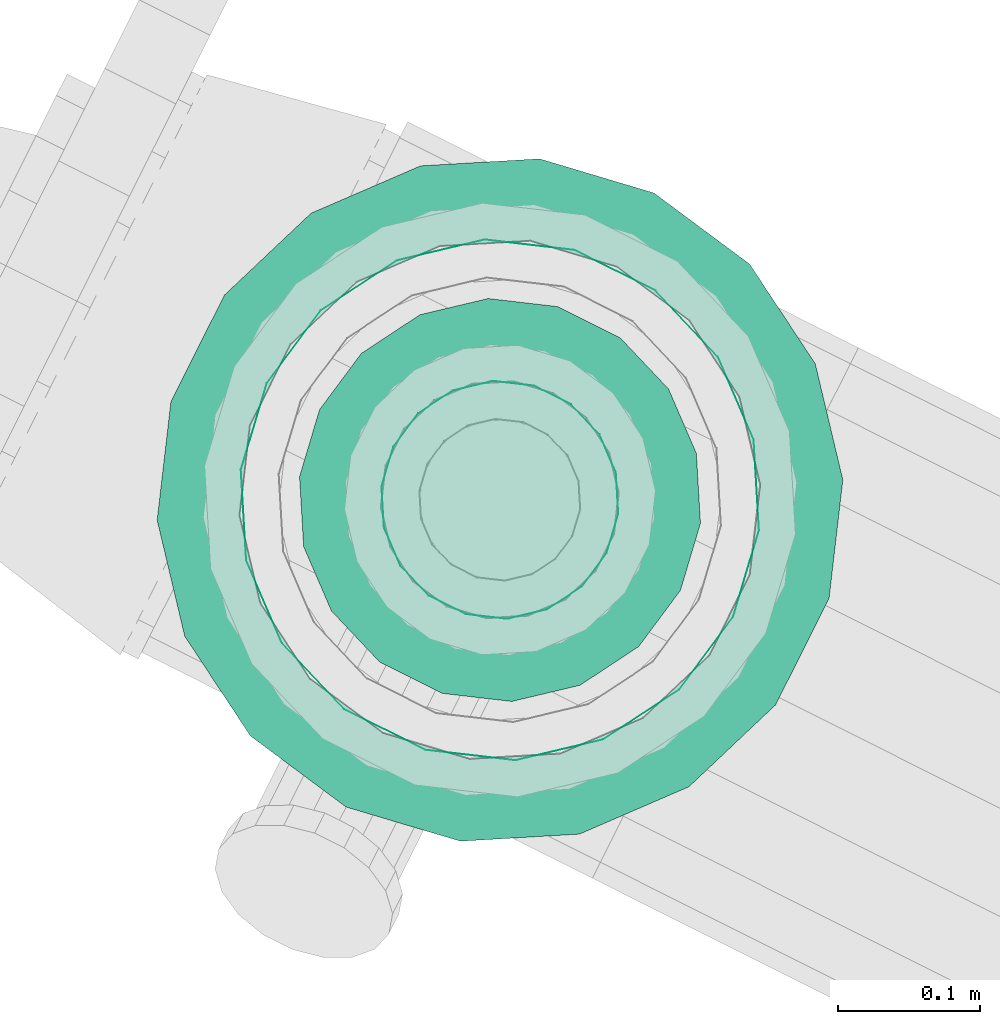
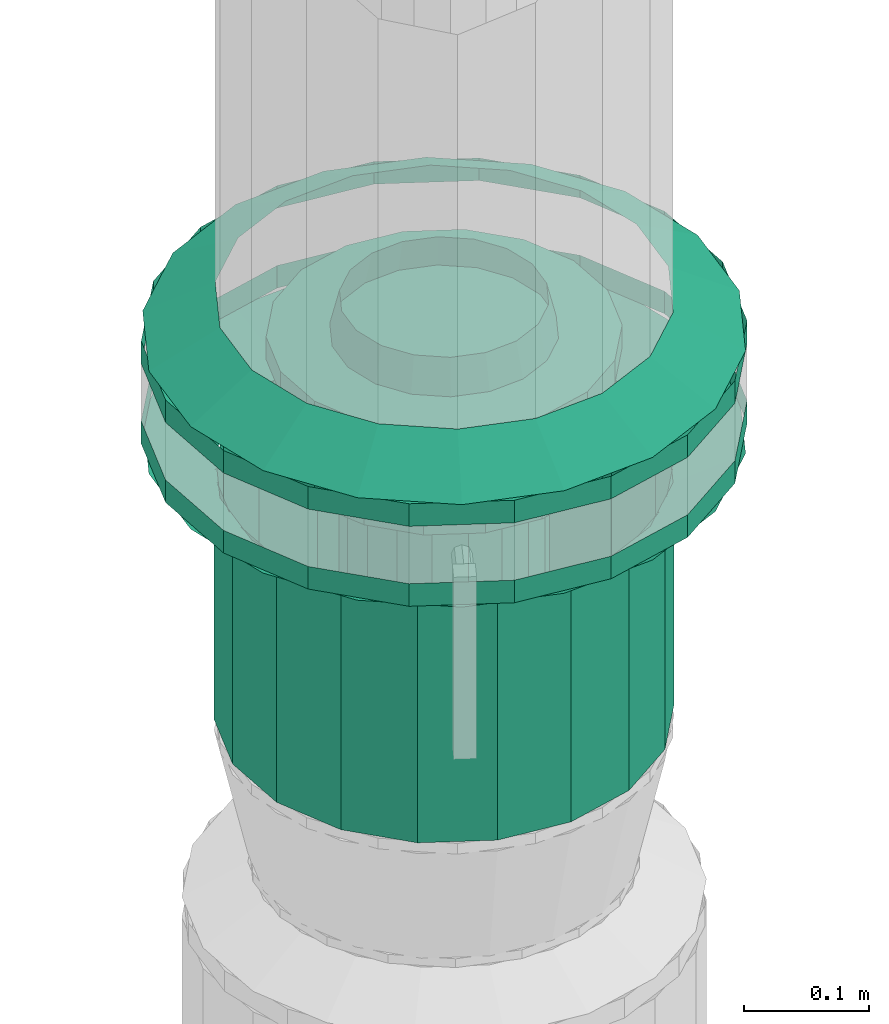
# One storey, part 73 of 152: 2 flow fittings, 1 flow segment.
"""IFC2X3 building model written with IfcOpenShell, lengths in metres."""

from ifc_helpers import new_model, si_unit, derived_unit, direction, frame, origin, place, context, subcontext, project, spatial, face_set, surface_model, source, transform, mapped, material, type_object, type_shapes, element, save


model = new_model("IFC2X3")

# Units and contexts
model_context = context("Model", 3, precision=5.2338327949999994e-05, world=origin(), true_north=direction((0.0, 1.0)))
body_context = subcontext(model_context, "Body", "Model", "MODEL_VIEW")
ifc_project = project(units=[si_unit("LENGTHUNIT", "METRE"), si_unit("AREAUNIT", "SQUARE_METRE"), si_unit("VOLUMEUNIT", "CUBIC_METRE"), si_unit("MASSUNIT", "GRAM", prefix="KILO"), si_unit("PLANEANGLEUNIT", "RADIAN"), derived_unit("THERMALTRANSMITTANCEUNIT", [(si_unit("MASSUNIT", "GRAM", prefix="KILO"), 1), (si_unit("THERMODYNAMICTEMPERATUREUNIT", "KELVIN"), -1), (si_unit("TIMEUNIT", "SECOND"), -3)])], contexts=[model_context])

# Site, building, storey
site_placement = place(None, frame((0.0, 0.0, 0.0), z_axis=(0.0, 0.0, 1.0), x_axis=(0.8939966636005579, -0.4480736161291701, 0.0)))
site = spatial("IfcSite", under=ifc_project, at=site_placement, Name="Default", CompositionType="ELEMENT")
building_placement = place(site_placement, origin())
building = spatial("IfcBuilding", under=site, at=building_placement, CompositionType="ELEMENT")
storey_placement = place(building_placement, frame((0.0, 0.0, 2.7499999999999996)))
storey = spatial("IfcBuildingStorey", under=building, at=storey_placement, Name="1. Obergeschoss", CompositionType="ELEMENT", Elevation=2.7499999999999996)

# Flow fitting
ifc_material = material(Name="IfcSurfaceStyle #1741")
distribution_element_type_1 = type_object("IfcDistributionElementType", Name="Flansch 320585:Flansch 320585", material=ifc_material)
shared_shape_1 = source(origin(), body_context, "Body", "SurfaceModel", [
    surface_model("IfcFaceBasedSurfaceModel", [(23.227353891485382, 8.459715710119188, 4.349183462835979), (23.218760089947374, 8.410977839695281, 4.349183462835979), (23.218760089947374, 8.410977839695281, 4.327183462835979), (23.227353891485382, 8.459715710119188, 4.327183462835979), (23.19401522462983, 8.368118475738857, 4.349183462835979), (23.19401522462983, 8.368118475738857, 4.327183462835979), (23.15610389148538, 8.336307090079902, 4.349183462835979), (23.15610389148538, 8.336307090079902, 4.327183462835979), (23.109598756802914, 8.319380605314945, 4.349183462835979), (23.109598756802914, 8.319380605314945, 4.327183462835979), (23.06010902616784, 8.319380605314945, 4.349183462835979), (23.06010902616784, 8.319380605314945, 4.327183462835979), (23.013603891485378, 8.336307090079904, 4.349183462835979), (23.013603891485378, 8.336307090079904, 4.327183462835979), (22.975692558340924, 8.368118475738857, 4.349183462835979), (22.975692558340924, 8.368118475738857, 4.327183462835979), (22.950947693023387, 8.410977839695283, 4.349183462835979), (22.950947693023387, 8.410977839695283, 4.327183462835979), (22.94235389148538, 8.45971571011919, 4.349183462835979), (22.94235389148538, 8.45971571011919, 4.327183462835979), (22.95094769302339, 8.508453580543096, 4.349183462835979), (22.95094769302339, 8.508453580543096, 4.327183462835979), (22.975692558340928, 8.551312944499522, 4.349183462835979), (22.975692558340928, 8.551312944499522, 4.327183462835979), (23.013603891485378, 8.583124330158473, 4.349183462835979), (23.013603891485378, 8.583124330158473, 4.327183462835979), (23.06010902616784, 8.60005081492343, 4.349183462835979), (23.06010902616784, 8.60005081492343, 4.327183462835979), (23.109598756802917, 8.600050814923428, 4.349183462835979), (23.109598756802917, 8.600050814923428, 4.327183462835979), (23.15610389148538, 8.583124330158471, 4.349183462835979), (23.15610389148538, 8.583124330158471, 4.327183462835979), (23.194015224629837, 8.551312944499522, 4.349183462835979), (23.194015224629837, 8.551312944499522, 4.327183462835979), (23.218760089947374, 8.50845358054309, 4.349183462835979), (23.218760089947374, 8.50845358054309, 4.327183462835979), (23.084853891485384, 8.459715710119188, 4.327183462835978), (23.08485389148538, 8.36771571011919, 4.327183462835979), (23.053388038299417, 8.373263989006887, 4.327183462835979), (23.056072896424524, 8.380640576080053, 4.29418346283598), (23.084853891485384, 8.375565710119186, 4.29418346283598), (23.02571743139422, 8.38923962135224, 4.327183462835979), (23.030763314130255, 8.395253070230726, 4.29418346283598), (23.005179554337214, 8.413715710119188, 4.327183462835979), (23.011977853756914, 8.417640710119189, 4.29418346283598), (22.994251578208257, 8.443740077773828, 4.327183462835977), (23.001982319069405, 8.445103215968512, 4.294183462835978), (22.994251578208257, 8.475691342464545, 4.327183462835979), (23.001982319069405, 8.474328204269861, 4.29418346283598), (23.005179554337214, 8.505715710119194, 4.327183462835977), (23.011977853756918, 8.501790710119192, 4.294183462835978), (23.02571743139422, 8.53019179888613, 4.327183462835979), (23.030763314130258, 8.524178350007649, 4.29418346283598), (23.053388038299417, 8.546167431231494, 4.327183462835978), (23.05607289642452, 8.538790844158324, 4.294183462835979), (23.08485389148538, 8.55171571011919, 4.327183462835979), (23.084853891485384, 8.543865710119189, 4.29418346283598), (23.116319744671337, 8.546167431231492, 4.327183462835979), (23.11363488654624, 8.53879084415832, 4.29418346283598), (23.14399035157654, 8.53019179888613, 4.327183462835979), (23.1389444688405, 8.524178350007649, 4.29418346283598), (23.164528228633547, 8.505715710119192, 4.327183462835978), (23.15772992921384, 8.50179071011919, 4.294183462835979), (23.175456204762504, 8.475691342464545, 4.327183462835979), (23.16772546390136, 8.474328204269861, 4.29418346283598), (23.175456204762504, 8.443740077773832, 4.32718346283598), (23.16772546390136, 8.445103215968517, 4.2941834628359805), (23.164528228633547, 8.413715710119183, 4.327183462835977), (23.157729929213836, 8.417640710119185, 4.294183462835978), (23.14399035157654, 8.389239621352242, 4.327183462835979), (23.1389444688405, 8.395253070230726, 4.29418346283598), (23.116319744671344, 8.373263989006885, 4.327183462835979), (23.113634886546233, 8.380640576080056, 4.29418346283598), (23.327353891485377, 8.459715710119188, 4.349183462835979), (23.312729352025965, 8.376775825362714, 4.349183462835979), (23.312729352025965, 8.376775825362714, 4.327183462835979), (23.327353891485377, 8.459715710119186, 4.327183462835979), (23.27061966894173, 8.303839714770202, 4.349183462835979), (23.27061966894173, 8.303839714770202, 4.327183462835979), (23.206103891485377, 8.249704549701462, 4.349183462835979), (23.206103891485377, 8.249704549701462, 4.327183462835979), (23.12696357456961, 8.22089983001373, 4.349183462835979), (23.12696357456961, 8.22089983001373, 4.327183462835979), (23.04274420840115, 8.22089983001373, 4.349183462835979), (23.04274420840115, 8.22089983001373, 4.327183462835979), (22.963603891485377, 8.249704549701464, 4.349183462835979), (22.963603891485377, 8.249704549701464, 4.327183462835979), (22.89908811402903, 8.303839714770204, 4.349183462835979), (22.89908811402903, 8.303839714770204, 4.327183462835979), (22.8569784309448, 8.376775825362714, 4.349183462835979), (22.8569784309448, 8.376775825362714, 4.327183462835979), (22.842353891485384, 8.45971571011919, 4.349183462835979), (22.842353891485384, 8.45971571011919, 4.327183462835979), (22.856978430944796, 8.542655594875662, 4.349183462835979), (22.856978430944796, 8.542655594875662, 4.327183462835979), (22.89908811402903, 8.615591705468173, 4.349183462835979), (22.89908811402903, 8.615591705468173, 4.327183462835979), (22.96360389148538, 8.669726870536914, 4.349183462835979), (22.96360389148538, 8.669726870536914, 4.327183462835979), (23.04274420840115, 8.698531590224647, 4.349183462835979), (23.04274420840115, 8.698531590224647, 4.327183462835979), (23.126963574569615, 8.698531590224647, 4.349183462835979), (23.126963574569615, 8.698531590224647, 4.327183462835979), (23.206103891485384, 8.669726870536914, 4.349183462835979), (23.206103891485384, 8.669726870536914, 4.327183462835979), (23.27061966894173, 8.615591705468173, 4.349183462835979), (23.27061966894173, 8.615591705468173, 4.327183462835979), (23.312729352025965, 8.54265559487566, 4.349183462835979), (23.312729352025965, 8.54265559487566, 4.327183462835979), (23.08485389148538, 8.217215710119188, 4.327183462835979), (23.001914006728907, 8.231840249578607, 4.327183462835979), (23.021870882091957, 8.286671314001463, 4.29418346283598), (23.08485389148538, 8.275565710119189, 4.294183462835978), (22.928977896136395, 8.273949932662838, 4.327183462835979), (22.9664845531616, 8.31864862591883, 4.29418346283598), (22.874842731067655, 8.33846571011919, 4.327183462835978), (22.925375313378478, 8.367640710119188, 4.294183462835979), (22.84603801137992, 8.417606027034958, 4.327183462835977), (22.903501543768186, 8.427738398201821, 4.294183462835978), (22.846038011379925, 8.501825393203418, 4.327183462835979), (22.903501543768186, 8.491693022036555, 4.29418346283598), (22.87484273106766, 8.58096571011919, 4.327183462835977), (22.925375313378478, 8.551790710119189, 4.294183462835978), (22.928977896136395, 8.645481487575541, 4.32718346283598), (22.966484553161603, 8.600782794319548, 4.2941834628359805), (23.001914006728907, 8.687591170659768, 4.327183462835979), (23.021870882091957, 8.632760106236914, 4.29418346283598), (23.08485389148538, 8.702215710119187, 4.327183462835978), (23.084853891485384, 8.643865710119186, 4.294183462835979), (23.167793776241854, 8.687591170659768, 4.327183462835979), (23.1478369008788, 8.632760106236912, 4.29418346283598), (23.240729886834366, 8.645481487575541, 4.327183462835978), (23.203223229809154, 8.600782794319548, 4.294183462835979), (23.294865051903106, 8.580965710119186, 4.327183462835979), (23.244332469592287, 8.55179071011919, 4.29418346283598), (23.323669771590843, 8.501825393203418, 4.327183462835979), (23.266206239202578, 8.491693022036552, 4.29418346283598), (23.323669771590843, 8.417606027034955, 4.32718346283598), (23.266206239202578, 8.427738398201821, 4.2941834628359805), (23.294865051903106, 8.338465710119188, 4.32718346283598), (23.244332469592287, 8.367640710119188, 4.2941834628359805), (23.240729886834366, 8.273949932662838, 4.327183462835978), (23.203223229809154, 8.318648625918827, 4.294183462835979), (23.167793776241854, 8.231840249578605, 4.327183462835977), (23.147836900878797, 8.286671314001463, 4.294183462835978)], [face_set([[[0, 1, 2, 3]], [[1, 4, 5, 2]], [[4, 6, 7, 5]], [[6, 8, 9, 7]], [[8, 10, 11, 9]], [[10, 12, 13, 11]], [[12, 14, 15, 13]], [[14, 16, 17, 15]], [[16, 18, 19, 17]], [[18, 20, 21, 19]], [[20, 22, 23, 21]], [[22, 24, 25, 23]], [[24, 26, 27, 25]], [[26, 28, 29, 27]], [[28, 30, 31, 29]], [[30, 32, 33, 31]], [[32, 34, 35, 33]], [[34, 0, 3, 35]], [[36, 35, 3]], [[36, 33, 35]], [[36, 31, 33]], [[36, 29, 31]], [[36, 27, 29]], [[36, 25, 27]], [[36, 23, 25]], [[36, 21, 23]], [[36, 19, 21]], [[36, 17, 19]], [[36, 15, 17]], [[36, 13, 15]], [[36, 11, 13]], [[36, 9, 11]], [[36, 7, 9]], [[36, 5, 7]], [[36, 2, 5]], [[36, 3, 2]], [[37, 38, 39, 40]], [[38, 41, 42, 39]], [[41, 43, 44, 42]], [[43, 45, 46, 44]], [[45, 47, 48, 46]], [[47, 49, 50, 48]], [[49, 51, 52, 50]], [[51, 53, 54, 52]], [[53, 55, 56, 54]], [[55, 57, 58, 56]], [[57, 59, 60, 58]], [[59, 61, 62, 60]], [[61, 63, 64, 62]], [[63, 65, 66, 64]], [[65, 67, 68, 66]], [[67, 69, 70, 68]], [[69, 71, 72, 70]], [[71, 37, 40, 72]], [[73, 74, 75, 76]], [[74, 77, 78, 75]], [[77, 79, 80, 78]], [[79, 81, 82, 80]], [[81, 83, 84, 82]], [[83, 85, 86, 84]], [[85, 87, 88, 86]], [[87, 89, 90, 88]], [[89, 91, 92, 90]], [[91, 93, 94, 92]], [[93, 95, 96, 94]], [[95, 97, 98, 96]], [[97, 99, 100, 98]], [[99, 101, 102, 100]], [[101, 103, 104, 102]], [[103, 105, 106, 104]], [[105, 107, 108, 106]], [[107, 73, 76, 108]], [[109, 110, 111, 112]], [[110, 113, 114, 111]], [[113, 115, 116, 114]], [[115, 117, 118, 116]], [[117, 119, 120, 118]], [[119, 121, 122, 120]], [[121, 123, 124, 122]], [[123, 125, 126, 124]], [[125, 127, 128, 126]], [[127, 129, 130, 128]], [[129, 131, 132, 130]], [[131, 133, 134, 132]], [[133, 135, 136, 134]], [[135, 137, 138, 136]], [[137, 139, 140, 138]], [[139, 141, 142, 140]], [[141, 143, 144, 142]], [[143, 109, 112, 144]]])]),
])
type_shapes(distribution_element_type_1, [shared_shape_1])
flow_fitting_1_placement = place(storey_placement, frame((0.0, 0.0, -2.7499999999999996)))
element("IfcFlowFitting", 1, at=flow_fitting_1_placement, inside=storey, type_object=distribution_element_type_1, material=ifc_material, Name="Flansch", ObjectType="Flansch", context=body_context, shape_type="MappedRepresentation", body=[
    mapped(shared_shape_1, transform((0.0, 0.0, 0.0), scale=1.0)),
])

# Flow segment
distribution_element_type_2 = type_object("IfcDistributionElementType", Name="Stahlrohr nach DIN 2448 320608:Stahlrohr nach DIN 2448 320608", material=ifc_material)
shared_shape_2 = source(origin(), body_context, "Body", "SurfaceModel", [
    surface_model("IfcFaceBasedSurfaceModel", [(23.000703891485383, 8.459715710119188, 4.29418346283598), (23.005778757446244, 8.488496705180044, 4.29418346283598), (23.005778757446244, 8.488496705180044, 4.055870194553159), (23.000703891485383, 8.459715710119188, 4.055870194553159), (23.02039125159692, 8.513806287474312, 4.29418346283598), (23.02039125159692, 8.513806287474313, 4.055870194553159), (23.042778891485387, 8.53259174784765, 4.29418346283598), (23.04277889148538, 8.53259174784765, 4.055870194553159), (23.070241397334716, 8.542587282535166, 4.29418346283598), (23.07024139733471, 8.54258728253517, 4.055870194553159), (23.099466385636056, 8.542587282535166, 4.29418346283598), (23.09946638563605, 8.542587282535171, 4.055870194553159), (23.12692889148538, 8.532591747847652, 4.29418346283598), (23.12692889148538, 8.53259174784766, 4.055870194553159), (23.149316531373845, 8.513806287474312, 4.29418346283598), (23.149316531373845, 8.513806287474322, 4.055870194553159), (23.16392902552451, 8.488496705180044, 4.29418346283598), (23.163929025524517, 8.488496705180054, 4.055870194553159), (23.16900389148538, 8.45971571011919, 4.294183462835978), (23.16900389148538, 8.459715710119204, 4.055870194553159), (23.16392902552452, 8.430934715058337, 4.29418346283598), (23.163929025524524, 8.430934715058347, 4.055870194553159), (23.149316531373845, 8.405625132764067, 4.29418346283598), (23.14931653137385, 8.405625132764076, 4.055870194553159), (23.126928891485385, 8.386839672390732, 4.29418346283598), (23.12692889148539, 8.386839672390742, 4.055870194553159), (23.09946638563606, 8.376844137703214, 4.29418346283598), (23.099466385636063, 8.37684413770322, 4.055870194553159), (23.070241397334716, 8.376844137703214, 4.29418346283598), (23.070241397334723, 8.376844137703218, 4.055870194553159), (23.042778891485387, 8.386839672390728, 4.29418346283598), (23.042778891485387, 8.386839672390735, 4.055870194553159), (23.020391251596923, 8.405625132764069, 4.29418346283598), (23.020391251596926, 8.405625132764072, 4.055870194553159), (23.005778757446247, 8.430934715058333, 4.29418346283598), (23.005778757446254, 8.430934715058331, 4.055870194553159), (22.90070389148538, 8.459715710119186, 4.29418346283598), (22.911809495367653, 8.522698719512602, 4.29418346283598), (22.91180949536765, 8.52269871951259, 4.055870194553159), (22.900703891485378, 8.459715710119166, 4.055870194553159), (22.943786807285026, 8.578085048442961, 4.29418346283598), (22.94378680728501, 8.57808504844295, 4.055870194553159), (22.992778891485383, 8.61919428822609, 4.29418346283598), (22.99277889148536, 8.619194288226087, 4.055870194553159), (23.052876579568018, 8.641068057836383, 4.29418346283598), (23.05287657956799, 8.641068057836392, 4.055870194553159), (23.11683120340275, 8.641068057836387, 4.29418346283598), (23.116831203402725, 8.641068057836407, 4.055870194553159), (23.17692889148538, 8.619194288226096, 4.29418346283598), (23.176928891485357, 8.619194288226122, 4.055870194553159), (23.22592097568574, 8.578085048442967, 4.29418346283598), (23.225920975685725, 8.578085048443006, 4.055870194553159), (23.25789828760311, 8.522698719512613, 4.29418346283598), (23.2578982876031, 8.52269871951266, 4.055870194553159), (23.269003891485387, 8.459715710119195, 4.29418346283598), (23.269003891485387, 8.459715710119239, 4.055870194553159), (23.25789828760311, 8.396732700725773, 4.29418346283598), (23.257898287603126, 8.396732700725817, 4.055870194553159), (23.225920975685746, 8.341346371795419, 4.29418346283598), (23.225920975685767, 8.341346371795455, 4.055870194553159), (23.17692889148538, 8.30023713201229, 4.29418346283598), (23.176928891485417, 8.30023713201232, 4.055870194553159), (23.116831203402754, 8.278363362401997, 4.29418346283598), (23.11683120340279, 8.278363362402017, 4.055870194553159), (23.052876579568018, 8.278363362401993, 4.29418346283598), (23.052876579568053, 8.278363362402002, 4.055870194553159), (22.99277889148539, 8.300237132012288, 4.29418346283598), (22.992778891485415, 8.300237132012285, 4.055870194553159), (22.943786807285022, 8.341346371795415, 4.29418346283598), (22.943786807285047, 8.3413463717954, 4.055870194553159), (22.911809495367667, 8.396732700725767, 4.29418346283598), (22.911809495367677, 8.396732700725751, 4.055870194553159)], [face_set([[[0, 1, 2, 3]], [[1, 4, 5, 2]], [[4, 6, 7, 5]], [[6, 8, 9, 7]], [[8, 10, 11, 9]], [[10, 12, 13, 11]], [[12, 14, 15, 13]], [[14, 16, 17, 15]], [[16, 18, 19, 17]], [[18, 20, 21, 19]], [[20, 22, 23, 21]], [[22, 24, 25, 23]], [[24, 26, 27, 25]], [[26, 28, 29, 27]], [[28, 30, 31, 29]], [[30, 32, 33, 31]], [[32, 34, 35, 33]], [[34, 0, 3, 35]], [[36, 37, 38, 39]], [[37, 40, 41, 38]], [[40, 42, 43, 41]], [[42, 44, 45, 43]], [[44, 46, 47, 45]], [[46, 48, 49, 47]], [[48, 50, 51, 49]], [[50, 52, 53, 51]], [[52, 54, 55, 53]], [[54, 56, 57, 55]], [[56, 58, 59, 57]], [[58, 60, 61, 59]], [[60, 62, 63, 61]], [[62, 64, 65, 63]], [[64, 66, 67, 65]], [[66, 68, 69, 67]], [[68, 70, 71, 69]], [[70, 36, 39, 71]]])]),
])
type_shapes(distribution_element_type_2, [shared_shape_2])
flow_segment_placement = place(storey_placement, frame((0.0, 0.0, -2.7499999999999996)))
element("IfcFlowSegment", 2, at=flow_segment_placement, inside=storey, type_object=distribution_element_type_2, material=ifc_material, Name="Stahlrohr nach DIN 2448", ObjectType="Stahlrohr nach DIN 2448", context=body_context, shape_type="MappedRepresentation", body=[
    mapped(shared_shape_2, transform((0.0, 0.0, 0.0), scale=1.0)),
])

# Flow fitting
distribution_element_type_3 = type_object("IfcDistributionElementType", Name="Flansch 320757:Flansch 320757", material=ifc_material)
shared_shape_3 = source(origin(), body_context, "Body", "SurfaceModel", [
    surface_model("IfcFaceBasedSurfaceModel", [(23.227353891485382, 8.459715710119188, 4.4051834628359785), (23.218760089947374, 8.508453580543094, 4.4051834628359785), (23.218760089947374, 8.508453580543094, 4.42718346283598), (23.227353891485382, 8.459715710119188, 4.42718346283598), (23.19401522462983, 8.551312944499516, 4.4051834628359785), (23.19401522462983, 8.551312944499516, 4.42718346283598), (23.15610389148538, 8.583124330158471, 4.4051834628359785), (23.15610389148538, 8.583124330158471, 4.42718346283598), (23.109598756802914, 8.600050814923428, 4.4051834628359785), (23.109598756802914, 8.600050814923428, 4.42718346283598), (23.06010902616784, 8.600050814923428, 4.4051834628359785), (23.06010902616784, 8.600050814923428, 4.42718346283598), (23.013603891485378, 8.583124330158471, 4.4051834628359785), (23.013603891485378, 8.583124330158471, 4.42718346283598), (22.975692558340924, 8.551312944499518, 4.4051834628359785), (22.975692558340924, 8.551312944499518, 4.42718346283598), (22.950947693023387, 8.50845358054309, 4.4051834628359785), (22.950947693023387, 8.50845358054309, 4.42718346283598), (22.942353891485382, 8.459715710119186, 4.4051834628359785), (22.942353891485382, 8.459715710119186, 4.42718346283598), (22.95094769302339, 8.410977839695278, 4.4051834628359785), (22.95094769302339, 8.410977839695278, 4.42718346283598), (22.975692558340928, 8.368118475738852, 4.4051834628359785), (22.975692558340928, 8.368118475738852, 4.42718346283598), (23.013603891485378, 8.3363070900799, 4.4051834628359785), (23.013603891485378, 8.3363070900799, 4.42718346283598), (23.06010902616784, 8.319380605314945, 4.4051834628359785), (23.06010902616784, 8.319380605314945, 4.42718346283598), (23.109598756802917, 8.319380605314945, 4.4051834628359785), (23.109598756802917, 8.319380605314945, 4.42718346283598), (23.15610389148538, 8.336307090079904, 4.4051834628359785), (23.15610389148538, 8.336307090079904, 4.42718346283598), (23.194015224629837, 8.368118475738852, 4.4051834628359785), (23.194015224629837, 8.368118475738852, 4.42718346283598), (23.218760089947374, 8.410977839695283, 4.4051834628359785), (23.218760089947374, 8.410977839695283, 4.42718346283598), (23.084853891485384, 8.459715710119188, 4.427183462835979), (23.08485389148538, 8.551715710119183, 4.42718346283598), (23.053388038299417, 8.546167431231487, 4.42718346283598), (23.056072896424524, 8.53879084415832, 4.460183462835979), (23.084853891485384, 8.543865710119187, 4.460183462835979), (23.02571743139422, 8.53019179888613, 4.42718346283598), (23.030763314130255, 8.524178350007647, 4.460183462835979), (23.005179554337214, 8.505715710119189, 4.42718346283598), (23.011977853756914, 8.501790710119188, 4.460183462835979), (22.994251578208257, 8.475691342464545, 4.4271834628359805), (23.001982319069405, 8.474328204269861, 4.460183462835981), (22.99425157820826, 8.443740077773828, 4.42718346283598), (23.001982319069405, 8.445103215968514, 4.460183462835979), (23.005179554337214, 8.413715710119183, 4.4271834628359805), (23.011977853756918, 8.417640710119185, 4.460183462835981), (23.02571743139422, 8.389239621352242, 4.42718346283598), (23.030763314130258, 8.395253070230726, 4.460183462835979), (23.053388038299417, 8.37326398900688, 4.42718346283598), (23.05607289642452, 8.38064057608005, 4.460183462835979), (23.08485389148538, 8.367715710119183, 4.42718346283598), (23.084853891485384, 8.375565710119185, 4.460183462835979), (23.116319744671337, 8.373263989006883, 4.42718346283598), (23.11363488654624, 8.380640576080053, 4.460183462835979), (23.14399035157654, 8.389239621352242, 4.42718346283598), (23.1389444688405, 8.395253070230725, 4.460183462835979), (23.164528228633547, 8.413715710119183, 4.4271834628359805), (23.15772992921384, 8.417640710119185, 4.46018346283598), (23.175456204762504, 8.443740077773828, 4.42718346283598), (23.16772546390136, 8.445103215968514, 4.460183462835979), (23.175456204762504, 8.475691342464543, 4.427183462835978), (23.16772546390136, 8.474328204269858, 4.460183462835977), (23.164528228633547, 8.50571571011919, 4.42718346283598), (23.15772992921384, 8.50179071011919, 4.460183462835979), (23.14399035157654, 8.53019179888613, 4.42718346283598), (23.1389444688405, 8.524178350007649, 4.460183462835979), (23.116319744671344, 8.546167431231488, 4.42718346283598), (23.113634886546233, 8.538790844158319, 4.460183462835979), (23.327353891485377, 8.459715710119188, 4.4051834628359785), (23.312729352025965, 8.542655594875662, 4.4051834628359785), (23.312729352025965, 8.542655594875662, 4.42718346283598), (23.327353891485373, 8.45971571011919, 4.42718346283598), (23.27061966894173, 8.615591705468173, 4.4051834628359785), (23.27061966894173, 8.615591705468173, 4.42718346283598), (23.206103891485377, 8.66972687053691, 4.4051834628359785), (23.206103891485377, 8.66972687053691, 4.42718346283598), (23.12696357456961, 8.698531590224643, 4.4051834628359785), (23.12696357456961, 8.698531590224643, 4.42718346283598), (23.04274420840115, 8.698531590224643, 4.4051834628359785), (23.04274420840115, 8.698531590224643, 4.42718346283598), (22.963603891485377, 8.66972687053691, 4.4051834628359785), (22.963603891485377, 8.66972687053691, 4.42718346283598), (22.89908811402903, 8.615591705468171, 4.4051834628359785), (22.89908811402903, 8.615591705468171, 4.42718346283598), (22.8569784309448, 8.542655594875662, 4.4051834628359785), (22.8569784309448, 8.542655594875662, 4.42718346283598), (22.842353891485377, 8.459715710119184, 4.4051834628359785), (22.842353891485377, 8.459715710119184, 4.42718346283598), (22.856978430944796, 8.376775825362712, 4.4051834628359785), (22.856978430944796, 8.376775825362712, 4.42718346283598), (22.89908811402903, 8.3038397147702, 4.4051834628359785), (22.89908811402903, 8.3038397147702, 4.42718346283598), (22.96360389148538, 8.24970454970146, 4.4051834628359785), (22.96360389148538, 8.24970454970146, 4.42718346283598), (23.04274420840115, 8.220899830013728, 4.4051834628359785), (23.04274420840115, 8.220899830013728, 4.42718346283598), (23.126963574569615, 8.220899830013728, 4.4051834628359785), (23.126963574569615, 8.220899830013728, 4.42718346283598), (23.206103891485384, 8.24970454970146, 4.4051834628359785), (23.206103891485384, 8.24970454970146, 4.42718346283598), (23.27061966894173, 8.303839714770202, 4.4051834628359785), (23.27061966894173, 8.303839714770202, 4.42718346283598), (23.312729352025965, 8.376775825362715, 4.4051834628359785), (23.312729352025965, 8.376775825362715, 4.42718346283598), (23.08485389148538, 8.702215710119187, 4.42718346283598), (23.001914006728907, 8.687591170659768, 4.42718346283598), (23.021870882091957, 8.63276010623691, 4.46018346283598), (23.08485389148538, 8.643865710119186, 4.46018346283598), (22.928977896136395, 8.645481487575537, 4.42718346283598), (22.9664845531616, 8.600782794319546, 4.46018346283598), (22.874842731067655, 8.580965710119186, 4.42718346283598), (22.925375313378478, 8.551790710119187, 4.460183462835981), (22.84603801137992, 8.501825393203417, 4.42718346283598), (22.903501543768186, 8.491693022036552, 4.460183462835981), (22.846038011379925, 8.417606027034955, 4.427183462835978), (22.903501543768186, 8.42773839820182, 4.460183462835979), (22.87484273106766, 8.338465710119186, 4.4271834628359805), (22.925375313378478, 8.367640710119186, 4.460183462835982), (22.928977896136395, 8.273949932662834, 4.427183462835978), (22.966484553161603, 8.318648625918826, 4.460183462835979), (23.001914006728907, 8.231840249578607, 4.427183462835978), (23.021870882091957, 8.286671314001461, 4.460183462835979), (23.08485389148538, 8.217215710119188, 4.42718346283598), (23.084853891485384, 8.275565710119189, 4.46018346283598), (23.167793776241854, 8.231840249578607, 4.427183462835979), (23.1478369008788, 8.286671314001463, 4.460183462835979), (23.240729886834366, 8.273949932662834, 4.42718346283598), (23.203223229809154, 8.318648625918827, 4.46018346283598), (23.294865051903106, 8.33846571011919, 4.427183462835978), (23.244332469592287, 8.367640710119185, 4.460183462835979), (23.323669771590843, 8.417606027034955, 4.427183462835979), (23.266206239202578, 8.427738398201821, 4.460183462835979), (23.323669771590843, 8.50182539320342, 4.427183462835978), (23.266206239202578, 8.491693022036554, 4.460183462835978), (23.294865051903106, 8.580965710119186, 4.427183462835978), (23.244332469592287, 8.551790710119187, 4.460183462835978), (23.240729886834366, 8.645481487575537, 4.42718346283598), (23.20322322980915, 8.600782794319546, 4.46018346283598), (23.167793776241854, 8.687591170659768, 4.42718346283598), (23.147836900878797, 8.632760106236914, 4.46018346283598)], [face_set([[[0, 1, 2, 3]], [[1, 4, 5, 2]], [[4, 6, 7, 5]], [[6, 8, 9, 7]], [[8, 10, 11, 9]], [[10, 12, 13, 11]], [[12, 14, 15, 13]], [[14, 16, 17, 15]], [[16, 18, 19, 17]], [[18, 20, 21, 19]], [[20, 22, 23, 21]], [[22, 24, 25, 23]], [[24, 26, 27, 25]], [[26, 28, 29, 27]], [[28, 30, 31, 29]], [[30, 32, 33, 31]], [[32, 34, 35, 33]], [[34, 0, 3, 35]], [[36, 35, 3]], [[36, 33, 35]], [[36, 31, 33]], [[36, 29, 31]], [[36, 27, 29]], [[36, 25, 27]], [[36, 23, 25]], [[36, 21, 23]], [[36, 19, 21]], [[36, 17, 19]], [[36, 15, 17]], [[36, 13, 15]], [[36, 11, 13]], [[36, 9, 11]], [[36, 7, 9]], [[36, 5, 7]], [[36, 2, 5]], [[36, 3, 2]], [[37, 38, 39, 40]], [[38, 41, 42, 39]], [[41, 43, 44, 42]], [[43, 45, 46, 44]], [[45, 47, 48, 46]], [[47, 49, 50, 48]], [[49, 51, 52, 50]], [[51, 53, 54, 52]], [[53, 55, 56, 54]], [[55, 57, 58, 56]], [[57, 59, 60, 58]], [[59, 61, 62, 60]], [[61, 63, 64, 62]], [[63, 65, 66, 64]], [[65, 67, 68, 66]], [[67, 69, 70, 68]], [[69, 71, 72, 70]], [[71, 37, 40, 72]], [[73, 74, 75, 76]], [[74, 77, 78, 75]], [[77, 79, 80, 78]], [[79, 81, 82, 80]], [[81, 83, 84, 82]], [[83, 85, 86, 84]], [[85, 87, 88, 86]], [[87, 89, 90, 88]], [[89, 91, 92, 90]], [[91, 93, 94, 92]], [[93, 95, 96, 94]], [[95, 97, 98, 96]], [[97, 99, 100, 98]], [[99, 101, 102, 100]], [[101, 103, 104, 102]], [[103, 105, 106, 104]], [[105, 107, 108, 106]], [[107, 73, 76, 108]], [[109, 110, 111, 112]], [[110, 113, 114, 111]], [[113, 115, 116, 114]], [[115, 117, 118, 116]], [[117, 119, 120, 118]], [[119, 121, 122, 120]], [[121, 123, 124, 122]], [[123, 125, 126, 124]], [[125, 127, 128, 126]], [[127, 129, 130, 128]], [[129, 131, 132, 130]], [[131, 133, 134, 132]], [[133, 135, 136, 134]], [[135, 137, 138, 136]], [[137, 139, 140, 138]], [[139, 141, 142, 140]], [[141, 143, 144, 142]], [[143, 109, 112, 144]]])]),
])
type_shapes(distribution_element_type_3, [shared_shape_3])
flow_fitting_2_placement = place(storey_placement, frame((0.0, 0.0, -2.7499999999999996)))
element("IfcFlowFitting", 3, at=flow_fitting_2_placement, inside=storey, type_object=distribution_element_type_3, material=ifc_material, Name="Flansch", ObjectType="Flansch", context=body_context, shape_type="MappedRepresentation", body=[
    mapped(shared_shape_3, transform((0.0, 0.0, 0.0), scale=1.0)),
])

save(model, "model.ifc")
